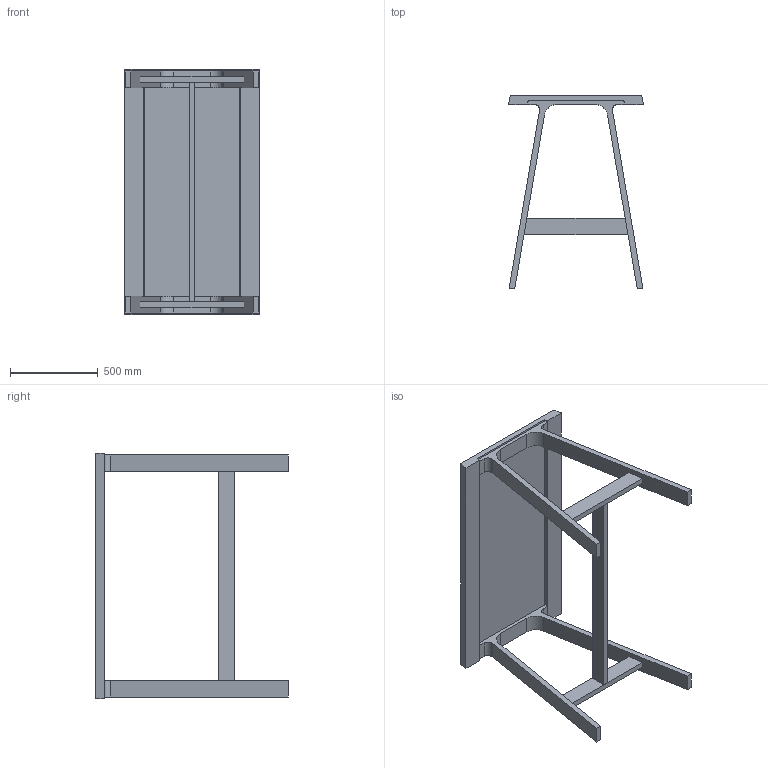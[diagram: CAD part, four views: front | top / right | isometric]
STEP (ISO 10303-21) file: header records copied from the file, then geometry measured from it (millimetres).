
FILE_DESCRIPTION (( 'STEP AP203' ), '1' );
FILE_NAME ('Doble bar 140x75x110.STEP', '2013-12-16T12:04:52', ( '' ), ( '' ), 'SwSTEP 2.0', 'SolidWorks 2013', '' );
FILE_SCHEMA (( 'CONFIG_CONTROL_DESIGN' ));
Length unit declared in the file: millimetre
Products named in the file (1): Doble bar 140x75x110
Bounding box: 767.63 x 1100 x 1400 mm (x, y, z)
Volume: 60416481.1 mm3; surface area: 4301401 mm2
Topology: 4 solids, 4 shells, 60 faces, 156 edges, 104 vertices
Faces by surface type: plane 52, cylinder 8
Entity records: 1895 total; most frequent: CARTESIAN_POINT 321, ORIENTED_EDGE 312, DIRECTION 294, EDGE_CURVE 156, LINE 140, VECTOR 140, VERTEX_POINT 104, AXIS2_PLACEMENT_3D 77
